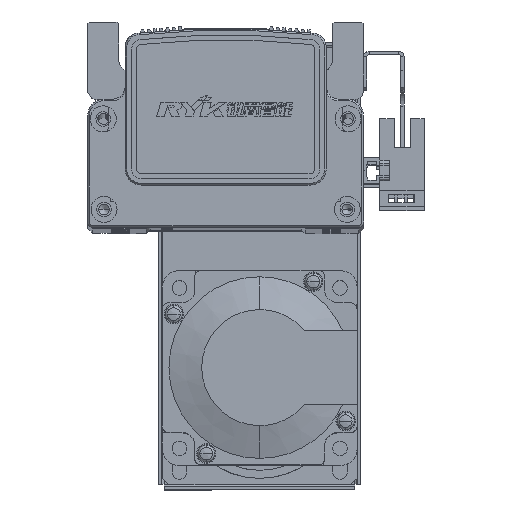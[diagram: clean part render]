
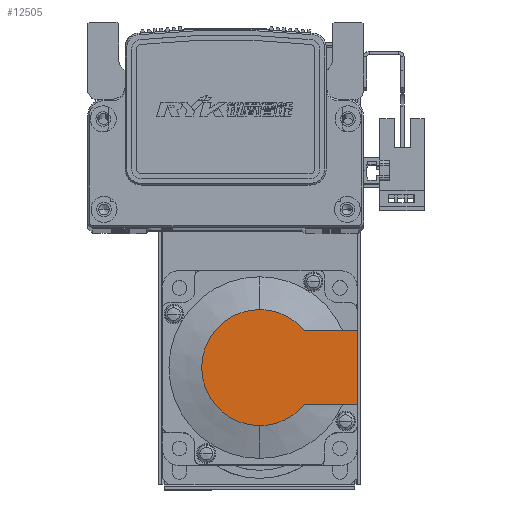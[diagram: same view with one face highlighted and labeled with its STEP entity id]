
A CAD part, top view. The second image highlights one B-rep face of the part: STEP entity #12505.
In plain terms, the highlighted planar face has unit normal (0, 0, 1) as drawn and (-1, 0, 0) by its records, which use the part's own axes.
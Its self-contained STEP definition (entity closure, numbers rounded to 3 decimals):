
#656 = DIRECTION ( 'NONE',  ( -1., 0., 0. ) ) ;
#669 = DIRECTION ( 'NONE',  ( 0., 0., -1. ) ) ;
#688 = CARTESIAN_POINT ( 'NONE',  ( -99., 0., 0. ) ) ;
#830 = DIRECTION ( 'NONE',  ( 0., 0., -1. ) ) ;
#834 = DIRECTION ( 'NONE',  ( -1., 0., 0. ) ) ;
#843 = CARTESIAN_POINT ( 'NONE',  ( -99., 0., 0. ) ) ;
#2901 = FACE_OUTER_BOUND ( 'NONE', #8349, .T. ) ;
#3209 = AXIS2_PLACEMENT_3D ( 'NONE', #843, #834, #830 ) ;
#3221 = AXIS2_PLACEMENT_3D ( 'NONE', #688, #656, #669 ) ;
#8094 = ORIENTED_EDGE ( 'NONE', *, *, #8570, .T. ) ;
#8154 = ORIENTED_EDGE ( 'NONE', *, *, #8587, .F. ) ;
#8191 = ORIENTED_EDGE ( 'NONE', *, *, #27846, .T. ) ;
#8273 = ORIENTED_EDGE ( 'NONE', *, *, #8510, .F. ) ;
#8284 = ORIENTED_EDGE ( 'NONE', *, *, #8527, .T. ) ;
#8348 = ORIENTED_EDGE ( 'NONE', *, *, #27905, .T. ) ;
#8349 = EDGE_LOOP ( 'NONE', ( #8094, #8284, #8348, #8191, #8154, #8273 ) ) ;
#8510 = EDGE_CURVE ( 'NONE', #39807, #39792, #17779, .T. ) ;
#8527 = EDGE_CURVE ( 'NONE', #41614, #41344, #17773, .T. ) ;
#8570 = EDGE_CURVE ( 'NONE', #39807, #41614, #17511, .T. ) ;
#8587 = EDGE_CURVE ( 'NONE', #39792, #41360, #17624, .T. ) ;
#10984 = CARTESIAN_POINT ( 'NONE',  ( -99., -8.941, 0. ) ) ;
#11009 = DIRECTION ( 'NONE',  ( -1., 0., 0. ) ) ;
#11033 = DIRECTION ( 'NONE',  ( 0., 0., 1. ) ) ;
#11063 = PLANE ( 'NONE',  #12827 ) ;
#12505 = ADVANCED_FACE ( 'NONE', ( #2901 ), #11063, .T. ) ;
#12827 = AXIS2_PLACEMENT_3D ( 'NONE', #10984, #11009, #11033 ) ;
#17511 = LINE ( 'NONE', #39730, #17531 ) ;
#17531 = VECTOR ( 'NONE', #39737, 1000. ) ;
#17568 = VECTOR ( 'NONE', #39723, 1000. ) ;
#17624 = LINE ( 'NONE', #39720, #17568 ) ;
#17773 = CIRCLE ( 'NONE', #22188, 17.881 ) ;
#17779 = LINE ( 'NONE', #39705, #17816 ) ;
#17816 = VECTOR ( 'NONE', #39679, 1000. ) ;
#22188 = AXIS2_PLACEMENT_3D ( 'NONE', #39687, #39681, #39671 ) ;
#27846 = EDGE_CURVE ( 'NONE', #41396, #41360, #70310, .T. ) ;
#27905 = EDGE_CURVE ( 'NONE', #41344, #41396, #70360, .T. ) ;
#39671 = DIRECTION ( 'NONE',  ( 0., 0., -1. ) ) ;
#39679 = DIRECTION ( 'NONE',  ( 0., 0., 1. ) ) ;
#39681 = DIRECTION ( 'NONE',  ( -1., 0., 0. ) ) ;
#39687 = CARTESIAN_POINT ( 'NONE',  ( -99., 0., 0. ) ) ;
#39705 = CARTESIAN_POINT ( 'NONE',  ( -99., 30., 25. ) ) ;
#39720 = CARTESIAN_POINT ( 'NONE',  ( -99., 0., 11.45 ) ) ;
#39723 = DIRECTION ( 'NONE',  ( 0., -1., 0. ) ) ;
#39730 = CARTESIAN_POINT ( 'NONE',  ( -99., -8.941, -11.45 ) ) ;
#39737 = DIRECTION ( 'NONE',  ( 0., -1., 0. ) ) ;
#39792 = VERTEX_POINT ( 'NONE', #52229 ) ;
#39807 = VERTEX_POINT ( 'NONE', #52213 ) ;
#41344 = VERTEX_POINT ( 'NONE', #60670 ) ;
#41360 = VERTEX_POINT ( 'NONE', #60665 ) ;
#41396 = VERTEX_POINT ( 'NONE', #60693 ) ;
#41614 = VERTEX_POINT ( 'NONE', #60766 ) ;
#52213 = CARTESIAN_POINT ( 'NONE',  ( -99., 30., -11.45 ) ) ;
#52229 = CARTESIAN_POINT ( 'NONE',  ( -99., 30., 11.45 ) ) ;
#60665 = CARTESIAN_POINT ( 'NONE',  ( -99., 13.735, 11.45 ) ) ;
#60670 = CARTESIAN_POINT ( 'NONE',  ( -99., 0., -17.881 ) ) ;
#60693 = CARTESIAN_POINT ( 'NONE',  ( -99., 0., 17.881 ) ) ;
#60766 = CARTESIAN_POINT ( 'NONE',  ( -99., 13.735, -11.45 ) ) ;
#70310 = CIRCLE ( 'NONE', #3221, 17.881 ) ;
#70360 = CIRCLE ( 'NONE', #3209, 17.881 ) ;
